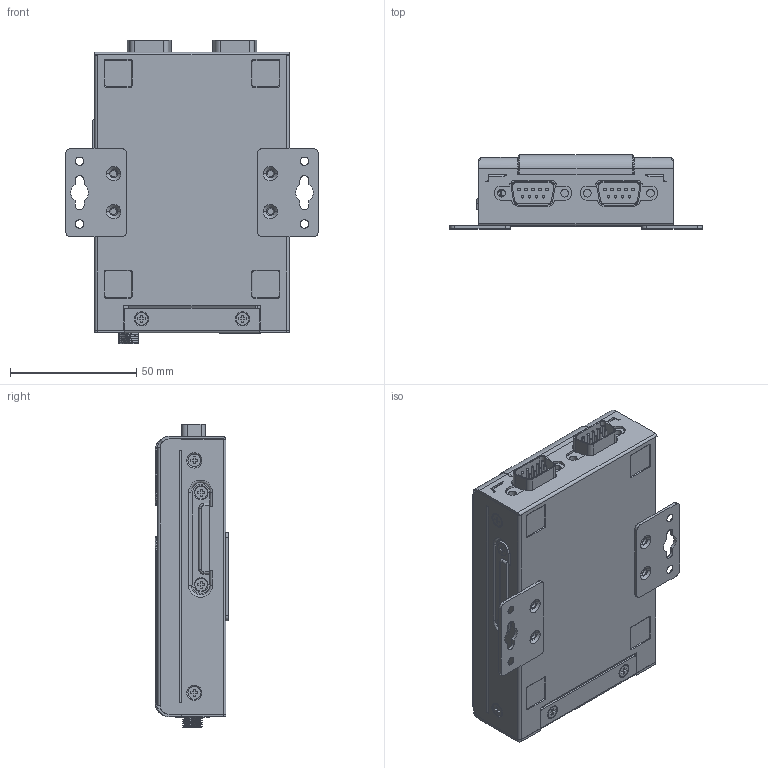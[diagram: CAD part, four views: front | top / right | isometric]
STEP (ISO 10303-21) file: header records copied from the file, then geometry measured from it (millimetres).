
FILE_DESCRIPTION((''),'2;1');
FILE_NAME('NPORT6250_SAT-2','2013-12-16T',('Sam_Liu'),(''),'PRO/ENGINEER BY PARAMETRIC TECHNOLOGY CORPORATION, 2013230','PRO/ENGINEER BY PARAMETRIC TECHNOLOGY CORPORATION, 2013230','');
FILE_SCHEMA(('CONFIG_CONTROL_DESIGN'));
Length unit declared in the file: millimetre
Products named in the file (1): NPORT6250_SAT-2
Bounding box: 100 x 29.2 x 120.3 mm (x, y, z)
Volume: 60562.9 mm3; surface area: 94542.6 mm2
Topology: 13 solids, 14 shells, 1814 faces, 4603 edges, 2963 vertices
Faces by surface type: plane 1098, cylinder 538, torus 70, cone 68, bspline 40
Entity records: 57161 total; most frequent: CARTESIAN_POINT 12458, DIRECTION 9271, ORIENTED_EDGE 9206, EDGE_CURVE 4603, VECTOR 3163, LINE 3163, AXIS2_PLACEMENT_3D 3054, VERTEX_POINT 2963
